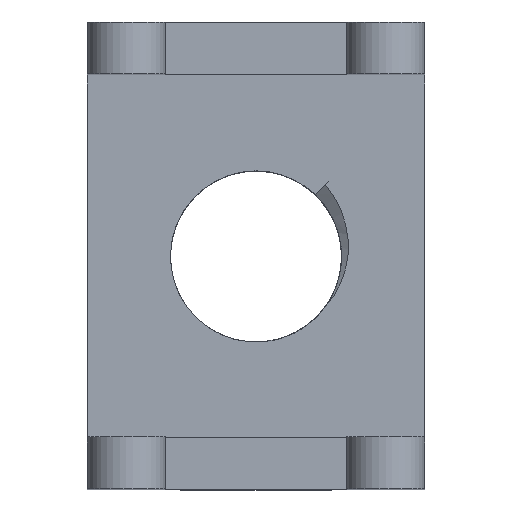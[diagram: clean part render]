
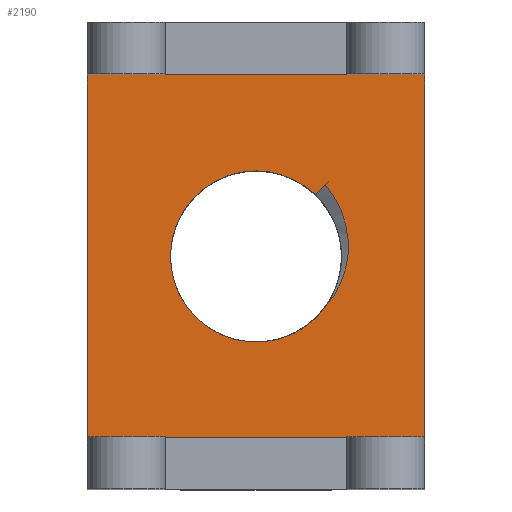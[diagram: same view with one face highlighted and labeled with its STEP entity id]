
A CAD part, top view. The second image highlights one B-rep face of the part: STEP entity #2190.
In plain terms, the highlighted planar face has unit normal (0, 0, 1).
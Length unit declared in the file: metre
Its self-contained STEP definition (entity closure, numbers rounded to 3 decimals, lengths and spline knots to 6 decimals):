
#25=DIRECTION('',(-1.,0.,0.));
#26=VECTOR('',#25,0.0065);
#27=CARTESIAN_POINT('',(0.0065,0.0035,-0.027174));
#28=LINE('',#27,#26);
#43=DIRECTION('',(0.691,0.723,0.));
#44=VECTOR('',#43,0.000277);
#45=CARTESIAN_POINT('',(0.00439,0.001193,
-0.027174));
#46=LINE('',#45,#44);
#47=CARTESIAN_POINT('',(0.00325,0.,-0.027174));
#48=DIRECTION('',(0.,0.,-1.));
#49=DIRECTION('',(0.,1.,0.));
#50=AXIS2_PLACEMENT_3D('',#47,#48,#49);
#52=DIRECTION('',(0.,1.,0.));
#53=VECTOR('',#52,0.007);
#54=CARTESIAN_POINT('',(0.0065,-0.0035,-0.027174));
#55=LINE('',#54,#53);
#56=DIRECTION('',(0.,-1.,0.));
#57=VECTOR('',#56,0.007);
#58=CARTESIAN_POINT('',(0.,0.0035,-0.027174));
#59=LINE('',#58,#57);
#64=CARTESIAN_POINT('',(0.004585,-0.00097,
-0.027174));
#65=CARTESIAN_POINT('',(0.004629,-0.000922,
-0.027174));
#66=CARTESIAN_POINT('',(0.00471,-0.000823,
-0.027174));
#67=CARTESIAN_POINT('',(0.004809,-0.000669,
-0.027174));
#68=CARTESIAN_POINT('',(0.004895,-0.000496,
-0.027174));
#69=CARTESIAN_POINT('',(0.004961,-0.000314,
-0.027174));
#70=CARTESIAN_POINT('',(0.005007,-0.000125,
-0.027174));
#71=CARTESIAN_POINT('',(0.005031,0.000072,
-0.027174));
#72=CARTESIAN_POINT('',(0.005034,0.000272,
-0.027174));
#73=CARTESIAN_POINT('',(0.005014,0.000471,
-0.027174));
#74=CARTESIAN_POINT('',(0.004971,0.000669,
-0.027174));
#75=CARTESIAN_POINT('',(0.004906,0.000864,
-0.027174));
#76=CARTESIAN_POINT('',(0.004819,0.001051,
-0.027174));
#77=CARTESIAN_POINT('',(0.004712,0.001228,
-0.027174));
#78=CARTESIAN_POINT('',(0.004628,0.001339,
-0.027174));
#79=CARTESIAN_POINT('',(0.004582,0.001393,
-0.027174));
#280=CARTESIAN_POINT('',(0.00325,0.,-0.027174));
#281=DIRECTION('',(0.,0.,-1.));
#282=DIRECTION('',(0.809,-0.588,0.));
#283=AXIS2_PLACEMENT_3D('',#280,#281,#282);
#724=DIRECTION('',(1.,0.,0.));
#725=VECTOR('',#724,0.0065);
#726=CARTESIAN_POINT('',(0.,-0.0035,-0.027174));
#727=LINE('',#726,#725);
#2026=CARTESIAN_POINT('',(0.00439,0.001193,
-0.027174));
#2027=CARTESIAN_POINT('',(0.004582,0.001393,
-0.027174));
#2028=VERTEX_POINT('',#2026);
#2029=VERTEX_POINT('',#2027);
#2030=CARTESIAN_POINT('',(0.00325,0.00165,-0.027174));
#2031=VERTEX_POINT('',#2030);
#2032=VERTEX_POINT('',#64);
#2050=CARTESIAN_POINT('',(0.0065,0.0035,-0.027174));
#2051=CARTESIAN_POINT('',(0.,0.0035,-0.027174));
#2052=VERTEX_POINT('',#2050);
#2053=VERTEX_POINT('',#2051);
#2088=CARTESIAN_POINT('',(0.,-0.0035,-0.027174));
#2089=CARTESIAN_POINT('',(0.0065,-0.0035,-0.027174));
#2090=VERTEX_POINT('',#2088);
#2091=VERTEX_POINT('',#2089);
#2167=CARTESIAN_POINT('',(0.00325,0.,-0.027174));
#2168=DIRECTION('',(0.,0.,1.));
#2169=DIRECTION('',(0.,1.,0.));
#2170=AXIS2_PLACEMENT_3D('',#2167,#2168,#2169);
#2171=PLANE('',#2170);
#2172=ORIENTED_EDGE('',*,*,#2149,.F.);
#2174=ORIENTED_EDGE('',*,*,#2173,.F.);
#2176=ORIENTED_EDGE('',*,*,#2175,.F.);
#2177=ORIENTED_EDGE('',*,*,#2113,.F.);
#2178=EDGE_LOOP('',(#2172,#2174,#2176,#2177));
#2179=FACE_OUTER_BOUND('',#2178,.F.);
#2181=ORIENTED_EDGE('',*,*,#2180,.T.);
#2183=ORIENTED_EDGE('',*,*,#2182,.F.);
#2185=ORIENTED_EDGE('',*,*,#2184,.F.);
#2187=ORIENTED_EDGE('',*,*,#2186,.F.);
#2188=EDGE_LOOP('',(#2181,#2183,#2185,#2187));
#2189=FACE_BOUND('',#2188,.F.);
#2190=ADVANCED_FACE('',(#2179,#2189),#2171,.T.);
#51=CIRCLE('',#50,0.00165);
#80=B_SPLINE_CURVE_WITH_KNOTS('',3,(#64,#65,#66,#67,#68,#69,#70,#71,#72,#73,#74,
#75,#76,#77,#78,#79),.UNSPECIFIED.,.F.,.F.,(4,1,1,1,1,1,1,1,1,1,1,1,1,4),(0.,
0.076923,0.153846,0.230769,0.307692,
0.384615,0.461538,0.538462,0.615385,
0.692308,0.769231,0.846154,0.923077,1.),
.UNSPECIFIED.);
#284=CIRCLE('',#283,0.00165);
#2113=EDGE_CURVE('',#2053,#2090,#59,.T.);
#2149=EDGE_CURVE('',#2052,#2053,#28,.T.);
#2173=EDGE_CURVE('',#2091,#2052,#55,.T.);
#2175=EDGE_CURVE('',#2090,#2091,#727,.T.);
#2180=EDGE_CURVE('',#2032,#2029,#80,.T.);
#2182=EDGE_CURVE('',#2028,#2029,#46,.T.);
#2184=EDGE_CURVE('',#2031,#2028,#51,.T.);
#2186=EDGE_CURVE('',#2032,#2031,#284,.T.);
